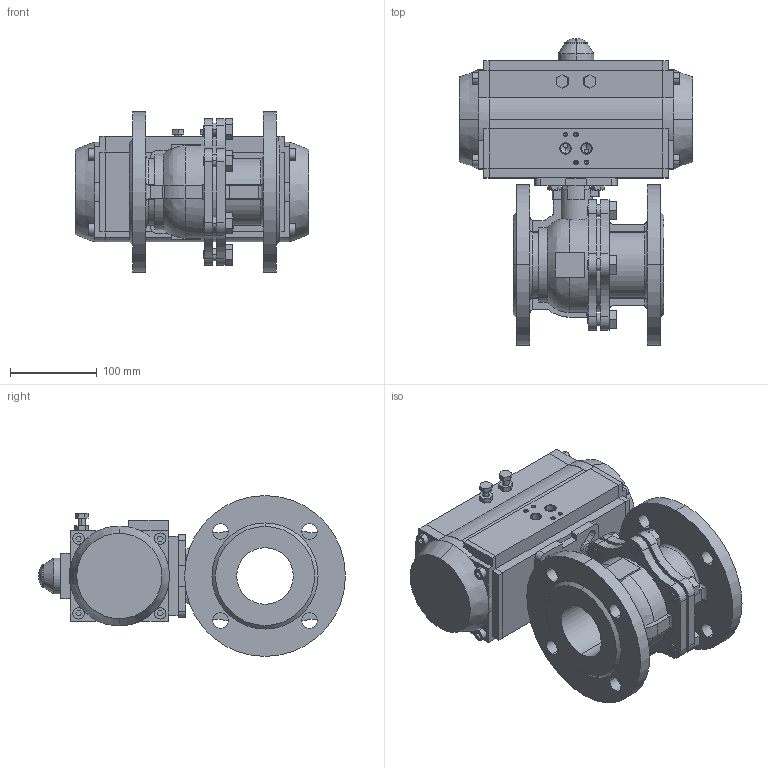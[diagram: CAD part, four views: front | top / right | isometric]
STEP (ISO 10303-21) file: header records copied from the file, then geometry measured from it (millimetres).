
FILE_DESCRIPTION((''),'2;1');
FILE_NAME('BV-22F_RPA_ASM','2024-09-11T',('USER'),(''),'PRO/ENGINEER BY PARAMETRIC TECHNOLOGY CORPORATION, 2011220','PRO/ENGINEER BY PARAMETRIC TECHNOLOGY CORPORATION, 2011220','');
FILE_SCHEMA(('CONFIG_CONTROL_DESIGN'));
Length unit declared in the file: millimetre
Products named in the file (12): KORPUS_KRAN_FL; BOLT_M14X25; SB_KRAN_FL_ASM; KORPUS_PNEVMOPRIVOD; KOLCO_25_GOST13942; KRISKA_VERX; VINT; KRISKA_LEFT; KRISKA_RIGHT; SB_PNEVMOPRIVOD_ASM; B-7798-M8-16; BV-22F_RPA_ASM
Assembly tree (19 placements, depth 3):
  BV-22F_RPA_ASM
    SB_KRAN_FL_ASM
      KORPUS_KRAN_FL
      BOLT_M14X25  x6
    SB_PNEVMOPRIVOD_ASM
      KORPUS_PNEVMOPRIVOD
      KOLCO_25_GOST13942
      KRISKA_VERX
      VINT
      KRISKA_LEFT
      KRISKA_RIGHT
    B-7798-M8-16  x4
Bounding box: 268 x 352.95 x 185 mm (x, y, z)
Volume: 5137509.1 mm3; surface area: 524626.8 mm2
Topology: 17 solids, 55 shells, 854 faces, 2221 edges, 1437 vertices
Faces by surface type: plane 433, cylinder 319, cone 78, torus 12, bspline 10, sphere 2
Entity records: 23540 total; most frequent: CARTESIAN_POINT 4792, DIRECTION 4041, ORIENTED_EDGE 3650, EDGE_CURVE 1887, AXIS2_PLACEMENT_3D 1456, VERTEX_POINT 1249, VECTOR 1129, LINE 1129
